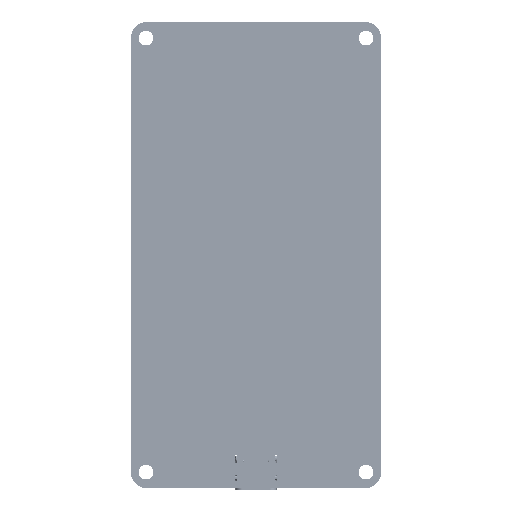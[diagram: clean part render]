
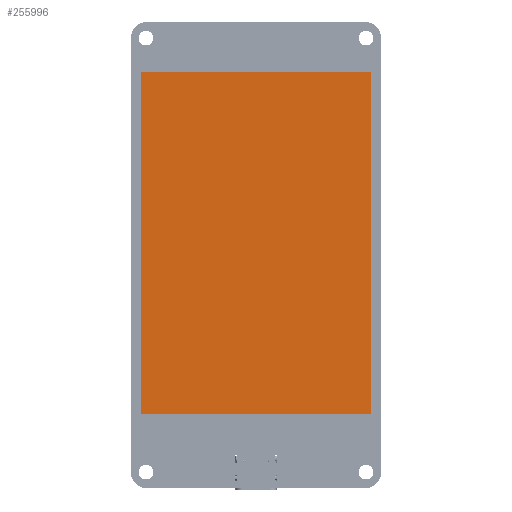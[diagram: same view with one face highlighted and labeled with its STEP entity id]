
A CAD part, top view. The second image highlights one B-rep face of the part: STEP entity #255996.
In plain terms, the highlighted planar face has unit normal (0, 0, 1).
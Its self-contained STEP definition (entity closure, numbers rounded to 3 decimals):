
#255803 = VERTEX_POINT('',#255804);
#255804 = CARTESIAN_POINT('',(-24.98,37.22,0.5));
#255810 = EDGE_CURVE('',#255803,#255811,#255813,.T.);
#255811 = VERTEX_POINT('',#255812);
#255812 = CARTESIAN_POINT('',(24.98,37.22,0.5));
#255813 = LINE('',#255814,#255815);
#255814 = CARTESIAN_POINT('',(-24.98,37.22,0.5));
#255815 = VECTOR('',#255816,1.);
#255816 = DIRECTION('',(1.,0.,0.));
#255841 = EDGE_CURVE('',#255811,#255842,#255844,.T.);
#255842 = VERTEX_POINT('',#255843);
#255843 = CARTESIAN_POINT('',(24.98,37.22,0.5));
#255844 = LINE('',#255845,#255846);
#255845 = CARTESIAN_POINT('',(24.98,37.22,0.5));
#255846 = VECTOR('',#255847,1.);
#255847 = DIRECTION('',(0.707,-0.707,0.));
#255872 = EDGE_CURVE('',#255842,#255873,#255875,.T.);
#255873 = VERTEX_POINT('',#255874);
#255874 = CARTESIAN_POINT('',(24.98,-37.22,0.5));
#255875 = LINE('',#255876,#255877);
#255876 = CARTESIAN_POINT('',(24.98,37.22,0.5));
#255877 = VECTOR('',#255878,1.);
#255878 = DIRECTION('',(0.,-1.,0.));
#255903 = EDGE_CURVE('',#255873,#255904,#255906,.T.);
#255904 = VERTEX_POINT('',#255905);
#255905 = CARTESIAN_POINT('',(-24.973,-37.22,0.5));
#255906 = LINE('',#255907,#255908);
#255907 = CARTESIAN_POINT('',(24.98,-37.22,0.5));
#255908 = VECTOR('',#255909,1.);
#255909 = DIRECTION('',(-1.,0.,0.));
#255934 = EDGE_CURVE('',#255904,#255935,#255937,.T.);
#255935 = VERTEX_POINT('',#255936);
#255936 = CARTESIAN_POINT('',(-24.977,-37.216,0.5));
#255937 = LINE('',#255938,#255939);
#255938 = CARTESIAN_POINT('',(-24.973,-37.22,0.5));
#255939 = VECTOR('',#255940,1.);
#255940 = DIRECTION('',(-0.707,0.707,0.));
#255965 = EDGE_CURVE('',#255935,#255803,#255966,.T.);
#255966 = LINE('',#255967,#255968);
#255967 = CARTESIAN_POINT('',(-24.977,-37.216,0.5));
#255968 = VECTOR('',#255969,1.);
#255969 = DIRECTION('',(0.,1.,0.));
#255996 = ADVANCED_FACE('',(#255997),#256005,.T.);
#255997 = FACE_BOUND('',#255998,.F.);
#255998 = EDGE_LOOP('',(#255999,#256000,#256001,#256002,#256003,#256004)
  );
#255999 = ORIENTED_EDGE('',*,*,#255810,.T.);
#256000 = ORIENTED_EDGE('',*,*,#255841,.T.);
#256001 = ORIENTED_EDGE('',*,*,#255872,.T.);
#256002 = ORIENTED_EDGE('',*,*,#255903,.T.);
#256003 = ORIENTED_EDGE('',*,*,#255934,.T.);
#256004 = ORIENTED_EDGE('',*,*,#255965,.T.);
#256005 = PLANE('',#256006);
#256006 = AXIS2_PLACEMENT_3D('',#256007,#256008,#256009);
#256007 = CARTESIAN_POINT('',(-24.98,37.22,0.5));
#256008 = DIRECTION('',(0.,0.,1.));
#256009 = DIRECTION('',(1.,0.,0.));
